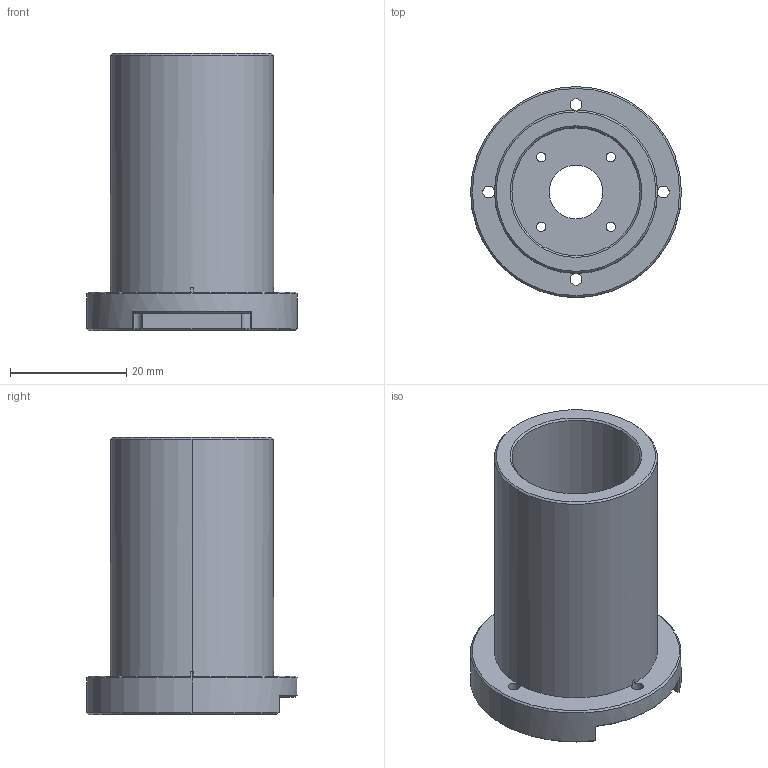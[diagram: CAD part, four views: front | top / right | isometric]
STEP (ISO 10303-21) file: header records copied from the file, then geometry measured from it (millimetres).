
FILE_DESCRIPTION (( 'STEP AP214' ), '1' );
FILE_NAME ('錨璃2.STEP', '2026-10-12T06:15:18', ( '' ), ( '' ), 'SwSTEP 2.0', 'SolidWorks 2024', '' );
FILE_SCHEMA (( 'AUTOMOTIVE_DESIGN' ));
Length unit declared in the file: millimetre
Products named in the file (1): 零件2
Bounding box: 36.2 x 36.2 x 47.6 mm (x, y, z)
Volume: 14427.1 mm3; surface area: 9489.3 mm2
Topology: 1 solids, 1 shells, 60 faces, 159 edges, 99 vertices
Faces by surface type: cylinder 27, cone 18, plane 15
Entity records: 1947 total; most frequent: CARTESIAN_POINT 367, DIRECTION 344, ORIENTED_EDGE 318, EDGE_CURVE 159, AXIS2_PLACEMENT_3D 140, VERTEX_POINT 99, CIRCLE 79, EDGE_LOOP 76
